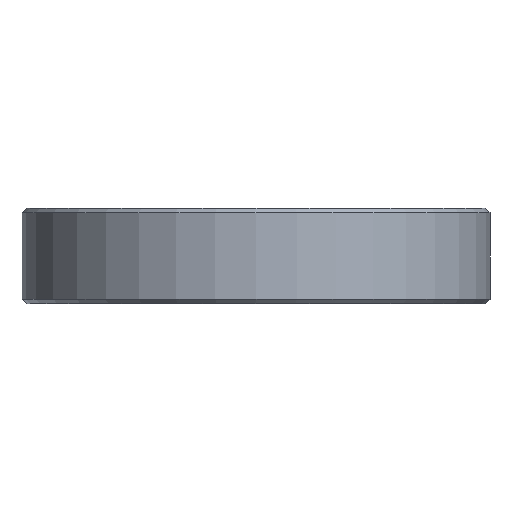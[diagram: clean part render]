
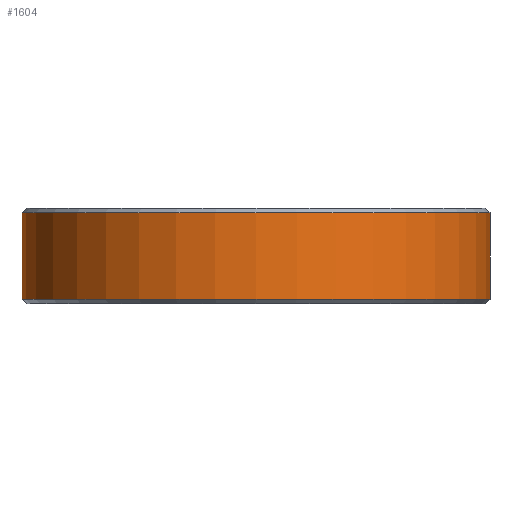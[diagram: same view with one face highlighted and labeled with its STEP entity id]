
A CAD part, front view. The second image highlights one B-rep face of the part: STEP entity #1604.
In plain terms, the highlighted cylindrical face has radius 24.397 mm (diameter 48.793 mm), a partial arc.
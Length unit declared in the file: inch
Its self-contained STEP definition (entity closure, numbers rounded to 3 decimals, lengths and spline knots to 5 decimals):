
#41 = LINE ( 'NONE', #340, #1615 ) ;
#151 = AXIS2_PLACEMENT_3D ( 'NONE', #1885, #659, #1727 ) ;
#162 = EDGE_CURVE ( 'NONE', #412, #1440, #509, .T. ) ;
#237 = EDGE_LOOP ( 'NONE', ( #933, #1432, #1903, #487 ) ) ;
#277 = CYLINDRICAL_SURFACE ( 'NONE', #1425, 0.9605 ) ;
#340 = CARTESIAN_POINT ( 'NONE',  ( -0.9605, 0., 0.3937 ) ) ;
#342 = CARTESIAN_POINT ( 'NONE',  ( -0.9605, 0., 0.02 ) ) ;
#412 = VERTEX_POINT ( 'NONE', #781 ) ;
#487 = ORIENTED_EDGE ( 'NONE', *, *, #1793, .T. ) ;
#509 = LINE ( 'NONE', #1945, #1659 ) ;
#510 = DIRECTION ( 'NONE',  ( -1., 0., 0. ) ) ;
#571 = CIRCLE ( 'NONE', #151, 0.9605 ) ;
#659 = DIRECTION ( 'NONE',  ( 0., 0., -1. ) ) ;
#690 = VERTEX_POINT ( 'NONE', #912 ) ;
#781 = CARTESIAN_POINT ( 'NONE',  ( 0.9605, 0., 0.3737 ) ) ;
#803 = CIRCLE ( 'NONE', #1675, 0.9605 ) ;
#836 = VERTEX_POINT ( 'NONE', #342 ) ;
#912 = CARTESIAN_POINT ( 'NONE',  ( -0.9605, 0., 0.3737 ) ) ;
#933 = ORIENTED_EDGE ( 'NONE', *, *, #162, .F. ) ;
#1009 = EDGE_CURVE ( 'NONE', #412, #690, #571, .T. ) ;
#1047 = DIRECTION ( 'NONE',  ( 0., 0., 1. ) ) ;
#1290 = CARTESIAN_POINT ( 'NONE',  ( 0., 0., 0.3937 ) ) ;
#1321 = DIRECTION ( 'NONE',  ( 1., 0., 0. ) ) ;
#1425 = AXIS2_PLACEMENT_3D ( 'NONE', #1290, #1882, #510 ) ;
#1432 = ORIENTED_EDGE ( 'NONE', *, *, #1009, .T. ) ;
#1440 = VERTEX_POINT ( 'NONE', #1813 ) ;
#1510 = DIRECTION ( 'NONE',  ( 0., 0., -1. ) ) ;
#1604 = ADVANCED_FACE ( 'NONE', ( #1826 ), #277, .T. ) ;
#1615 = VECTOR ( 'NONE', #1887, 39.37008 ) ;
#1617 = CARTESIAN_POINT ( 'NONE',  ( 0., 0., 0.02 ) ) ;
#1659 = VECTOR ( 'NONE', #1510, 39.37008 ) ;
#1675 = AXIS2_PLACEMENT_3D ( 'NONE', #1617, #1047, #1321 ) ;
#1697 = EDGE_CURVE ( 'NONE', #690, #836, #41, .T. ) ;
#1727 = DIRECTION ( 'NONE',  ( 1., 0., 0. ) ) ;
#1793 = EDGE_CURVE ( 'NONE', #836, #1440, #803, .T. ) ;
#1813 = CARTESIAN_POINT ( 'NONE',  ( 0.9605, 0., 0.02 ) ) ;
#1826 = FACE_OUTER_BOUND ( 'NONE', #237, .T. ) ;
#1882 = DIRECTION ( 'NONE',  ( 0., 0., -1. ) ) ;
#1885 = CARTESIAN_POINT ( 'NONE',  ( 0., 0., 0.3737 ) ) ;
#1887 = DIRECTION ( 'NONE',  ( 0., 0., -1. ) ) ;
#1903 = ORIENTED_EDGE ( 'NONE', *, *, #1697, .T. ) ;
#1945 = CARTESIAN_POINT ( 'NONE',  ( 0.9605, 0., 0.3937 ) ) ;
